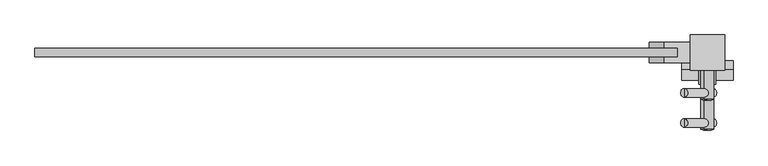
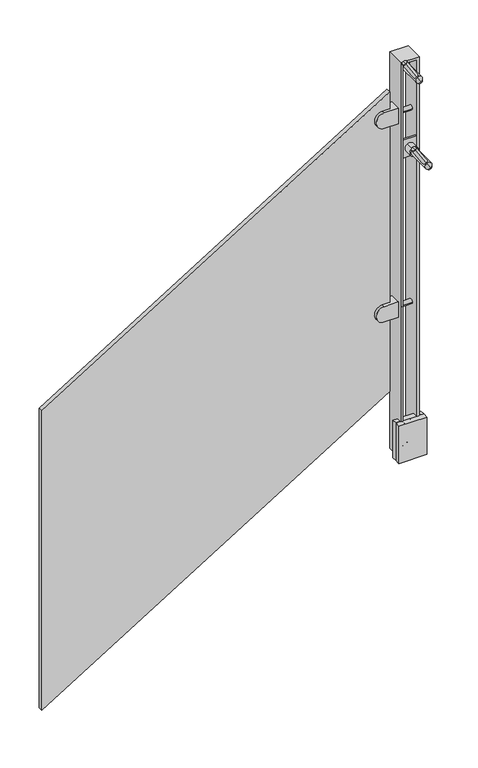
"""IFC4 building model written with IfcOpenShell, lengths in millimetres: proxy geometry, LIVERS_ICN - Glass Panel : LIVERS_ICN - Glass Panel."""

from ifc_helpers import new_model, si_unit, point, frame, origin, place, context, project, spatial, polyline, circle_curve, ellipse_curve, trimmed, outline, extrude, faceted_brep, source, transform, mapped, element, save
from ifc_brep_helpers import plane_surface, cylinder_surface, revolved_surface, advanced_brep


def building_element_proxy_b0592f50(model_context):
    return source(origin(), model_context, "Body", "SolidModel", [
        advanced_brep(
        [(1212.4700253, 60.3249609, 1367.0351008), (1219.2, 60.3249609, 1356.2648899), (1225.9299747, 60.3249609, 1345.4946791), (1212.4700253, 38.0999609, 1367.0351008), (1225.9299747, 38.0999609, 1345.4946791), (1219.2, 38.0999609, 1356.2648899)],
        [
            (0, 1),
            (1, 2),
            (2, 0, circle_curve(frame((1219.2, 60.3249609, 1356.2648899), z_axis=(0.0, 1.0, 0.0), x_axis=(0.5299192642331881, 0.0, -0.8480480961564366)), 12.7)),
            (0, 2, circle_curve(frame((1219.2, 60.3249609, 1356.2648899), z_axis=(0.0, 1.0, 0.0), x_axis=(0.5299192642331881, 0.0, -0.8480480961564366)), 12.7)),
            (3, 0),
            (2, 4),
            (4, 3, circle_curve(frame((1219.2, 38.0999609, 1356.2648899), z_axis=(0.0, 1.0, 0.0), x_axis=(0.5299192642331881, 0.0, -0.8480480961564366)), 12.7)),
            (3, 4, circle_curve(frame((1219.2, 38.0999609, 1356.2648899), z_axis=(0.0, 1.0, 0.0), x_axis=(0.5299192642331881, 0.0, -0.8480480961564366)), 12.7)),
            (5, 3),
            (4, 5),
        ],
        [
            plane_surface(frame((1219.2, 60.3249609, 1356.2648899), z_axis=(0.0, 1.0000000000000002, 0.0), x_axis=(0.5299192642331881, 0.0, -0.8480480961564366))),
            cylinder_surface(frame((1219.2, 69.3828283, 1356.2648899), z_axis=(0.0, -1.0, 0.0), x_axis=(0.5299192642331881, 0.0, -0.8480480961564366)), 12.7),
            plane_surface(frame((1219.2, 38.0999609, 1356.2648899), z_axis=(0.0, -1.0000000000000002, 0.0), x_axis=(0.5299192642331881, 0.0, -0.8480480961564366))),
        ],
        [
            (0, [[1, 2, 3]]),
            (0, [[-2, -1, 4]]),
            (1, [[5, -3, 6, 7]]),
            (1, [[-6, -4, -5, 8]]),
            (2, [[9, -7, 10]]),
            (2, [[-10, -8, -9]]),
        ],
    ),
        advanced_brep(
        [(1184.9323297, -25.4004131, 1411.1046259), (1184.9323297, -19.0504161, 1411.1046259), (1184.9323297, -12.7004191, 1411.1046259), (1227.535755, -25.4004131, 1342.9248933), (1227.535755, -12.7004191, 1342.9248933), (1227.535755, -19.0504161, 1342.9248933)],
        [
            (0, 1),
            (1, 2),
            (2, 0, circle_curve(frame((1184.9323297, -19.0504161, 1411.1046259), z_axis=(-0.5299192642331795, 0.0, 0.848048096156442), x_axis=(0.0, 1.0, 0.0)), 6.349997)),
            (0, 2, circle_curve(frame((1184.9323297, -19.0504161, 1411.1046259), z_axis=(-0.5299192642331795, 0.0, 0.848048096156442), x_axis=(0.0, 1.0, 0.0)), 6.349997)),
            (3, 0),
            (2, 4),
            (4, 3, circle_curve(frame((1227.535755, -19.0504161, 1342.9248933), z_axis=(-0.5299192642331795, 0.0, 0.848048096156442), x_axis=(0.0, 1.0, 0.0)), 6.349997)),
            (3, 4, circle_curve(frame((1227.535755, -19.0504161, 1342.9248933), z_axis=(-0.5299192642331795, 0.0, 0.848048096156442), x_axis=(0.0, 1.0, 0.0)), 6.349997)),
            (5, 3),
            (4, 5),
        ],
        [
            plane_surface(frame((1184.9323297, -19.0504161, 1411.1046259), z_axis=(-0.5299192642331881, 0.0, 0.8480480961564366), x_axis=(0.0, 1.0, 0.0))),
            cylinder_surface(frame((1177.5924143, -19.0504161, 1422.8509459), z_axis=(0.5299192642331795, 0.0, -0.848048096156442), x_axis=(0.0, 1.0, 0.0)), 6.349997),
            plane_surface(frame((1227.535755, -19.0504161, 1342.9248933), z_axis=(0.5299192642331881, 0.0, -0.8480480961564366), x_axis=(0.0, 1.0, 0.0))),
        ],
        [
            (0, [[1, 2, 3]]),
            (0, [[-2, -1, 4]]),
            (1, [[5, -3, 6, 7]]),
            (1, [[-6, -4, -5, 8]]),
            (2, [[9, -7, 10]]),
            (2, [[-10, -8, -9]]),
        ],
    ),
        advanced_brep(
        [(1219.2, -30.1375464, 1356.2648899), (1214.152519, -28.5500464, 1364.342548), (1224.247481, -28.5500464, 1348.1872318), (1214.152519, 38.0999609, 1364.342548), (1219.2, 38.0999609, 1356.2648899), (1224.247481, 38.0999609, 1348.1872318)],
        [
            (0, 1, circle_curve(frame((1219.2, -0.7687964, 1356.2648899), z_axis=(-0.848048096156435, 0.0, -0.5299192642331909), x_axis=(0.0, 1.0, 0.0)), 29.36875)),
            (1, 2, circle_curve(frame((1219.2, -28.5500464, 1356.2648899), z_axis=(0.0, -1.0, 0.0), x_axis=(0.5299192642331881, 0.0, -0.8480480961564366)), 9.525)),
            (2, 0, circle_curve(frame((1219.2, -0.7687964, 1356.2648899), z_axis=(-0.8480480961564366, 0.0, -0.5299192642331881), x_axis=(0.0, 1.0, 0.0)), 29.36875)),
            (2, 1, circle_curve(frame((1219.2, -28.5500464, 1356.2648899), z_axis=(0.0, -1.0, 0.0), x_axis=(0.5299192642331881, 0.0, -0.8480480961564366)), 9.525)),
            (3, 4),
            (4, 5),
            (5, 3, circle_curve(frame((1219.2, 38.0999609, 1356.2648899), z_axis=(0.0, 1.0, 0.0), x_axis=(0.5299192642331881, 0.0, -0.8480480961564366)), 9.525)),
            (3, 5, circle_curve(frame((1219.2, 38.0999609, 1356.2648899), z_axis=(0.0, 1.0, 0.0), x_axis=(0.5299192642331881, 0.0, -0.8480480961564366)), 9.525)),
            (1, 3),
            (5, 2),
        ],
        [
            revolved_surface(trimmed(ellipse_curve(frame((1219.2, -0.7687964, 1356.2648899), z_axis=(-0.8480480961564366, 0.0, -0.5299192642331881), x_axis=(0.0, 1.0, 0.0)), 29.36875, 29.36875), [point((1224.247481, -28.5500464, 1348.1872318))], [point((1219.2, -30.1375464, 1356.2648899))], True, "CARTESIAN"), (1219.2, 30.3031204, 1356.2648899), (0.0, -1.0, 0.0)),
            plane_surface(frame((1219.2, 38.0999609, 1356.2648899), z_axis=(0.0, 1.0000000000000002, 0.0), x_axis=(0.5299192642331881, 0.0, -0.8480480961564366))),
            cylinder_surface(frame((1219.2, 30.3031204, 1356.2648899), z_axis=(0.0, -1.0, 0.0), x_axis=(0.5299192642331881, 0.0, -0.8480480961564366)), 9.525),
        ],
        [
            (0, [[1, 2, 3]]),
            (0, [[-3, 4, -1]]),
            (1, [[5, 6, 7]]),
            (1, [[-6, -5, 8]]),
            (2, [[9, -7, 10, -2]]),
            (2, [[-10, -8, -9, -4]]),
        ],
    ),
        extrude(outline(polyline([(1238.25, 66.6749609), (1238.25, 60.3249609), (1200.15, 60.3249609), (1200.15, 66.6749609), (1238.25, 66.6749609)])), frame((0.0, 0.0, 1330.8648899), z_axis=(0.0, 0.0, 1.0), x_axis=(1.0, 0.0, 0.0)), (0.0, 0.0, 1.0), 50.8),
        advanced_brep(
        [(1212.4700253, 15.875, 1146.0174633), (1219.2, 15.875, 1135.2472525), (1225.9299747, 15.875, 1124.4770417), (1212.4700253, -6.35, 1146.0174633), (1225.9299747, -6.35, 1124.4770417), (1219.2, -6.35, 1135.2472525)],
        [
            (0, 1),
            (1, 2),
            (2, 0, circle_curve(frame((1219.2, 15.875, 1135.2472525), z_axis=(0.0, 1.0, 0.0), x_axis=(0.5299192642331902, 0.0, -0.8480480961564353)), 12.7)),
            (0, 2, circle_curve(frame((1219.2, 15.875, 1135.2472525), z_axis=(0.0, 1.0, 0.0), x_axis=(0.5299192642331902, 0.0, -0.8480480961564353)), 12.7)),
            (3, 0),
            (2, 4),
            (4, 3, circle_curve(frame((1219.2, -6.35, 1135.2472525), z_axis=(0.0, 1.0, 0.0), x_axis=(0.5299192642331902, 0.0, -0.8480480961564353)), 12.7)),
            (3, 4, circle_curve(frame((1219.2, -6.35, 1135.2472525), z_axis=(0.0, 1.0, 0.0), x_axis=(0.5299192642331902, 0.0, -0.8480480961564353)), 12.7)),
            (5, 3),
            (4, 5),
        ],
        [
            plane_surface(frame((1219.2, 15.875, 1135.2472525), z_axis=(0.0, 1.0000000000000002, 0.0), x_axis=(0.5299192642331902, 0.0, -0.8480480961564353))),
            cylinder_surface(frame((1219.2, 24.9328674, 1135.2472525), z_axis=(0.0, -1.0, 0.0), x_axis=(0.5299192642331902, 0.0, -0.8480480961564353)), 12.7),
            plane_surface(frame((1219.2, -6.35, 1135.2472525), z_axis=(0.0, -1.0000000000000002, 0.0), x_axis=(0.5299192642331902, 0.0, -0.8480480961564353))),
        ],
        [
            (0, [[1, 2, 3]]),
            (0, [[-2, -1, 4]]),
            (1, [[5, -3, 6, 7]]),
            (1, [[-6, -4, -5, 8]]),
            (2, [[9, -7, 10]]),
            (2, [[-10, -8, -9]]),
        ],
    ),
        advanced_brep(
        [(1184.9323297, -69.850374, 1190.0869885), (1184.9323297, -63.500377, 1190.0869885), (1184.9323297, -57.15038, 1190.0869885), (1227.535755, -69.850374, 1121.9072559), (1227.535755, -57.15038, 1121.9072559), (1227.535755, -63.500377, 1121.9072559)],
        [
            (0, 1),
            (1, 2),
            (2, 0, circle_curve(frame((1184.9323297, -63.500377, 1190.0869885), z_axis=(-0.5299192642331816, 0.0, 0.8480480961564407), x_axis=(0.0, 1.0, 0.0)), 6.349997)),
            (0, 2, circle_curve(frame((1184.9323297, -63.500377, 1190.0869885), z_axis=(-0.5299192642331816, 0.0, 0.8480480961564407), x_axis=(0.0, 1.0, 0.0)), 6.349997)),
            (3, 0),
            (2, 4),
            (4, 3, circle_curve(frame((1227.535755, -63.500377, 1121.9072559), z_axis=(-0.5299192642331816, 0.0, 0.8480480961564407), x_axis=(0.0, 1.0, 0.0)), 6.349997)),
            (3, 4, circle_curve(frame((1227.535755, -63.500377, 1121.9072559), z_axis=(-0.5299192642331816, 0.0, 0.8480480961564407), x_axis=(0.0, 1.0, 0.0)), 6.349997)),
            (5, 3),
            (4, 5),
        ],
        [
            plane_surface(frame((1184.9323297, -63.500377, 1190.0869885), z_axis=(-0.5299192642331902, 0.0, 0.8480480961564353), x_axis=(0.0, 1.0, 0.0))),
            cylinder_surface(frame((1177.5924143, -63.500377, 1201.8333085), z_axis=(0.5299192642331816, 0.0, -0.8480480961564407), x_axis=(0.0, 1.0, 0.0)), 6.349997),
            plane_surface(frame((1227.535755, -63.500377, 1121.9072559), z_axis=(0.5299192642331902, 0.0, -0.8480480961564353), x_axis=(0.0, 1.0, 0.0))),
        ],
        [
            (0, [[1, 2, 3]]),
            (0, [[-2, -1, 4]]),
            (1, [[5, -3, 6, 7]]),
            (1, [[-6, -4, -5, 8]]),
            (2, [[9, -7, 10]]),
            (2, [[-10, -8, -9]]),
        ],
    ),
        advanced_brep(
        [(1219.2, -74.5875073, 1135.2472525), (1214.152519, -73.0000073, 1143.3249106), (1224.247481, -73.0000073, 1127.1695944), (1214.152519, -6.35, 1143.3249106), (1219.2, -6.35, 1135.2472525), (1224.247481, -6.35, 1127.1695944)],
        [
            (0, 1, circle_curve(frame((1219.2, -45.2187573, 1135.2472525), z_axis=(-0.8480480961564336, 0.0, -0.529919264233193), x_axis=(0.0, 1.0, 0.0)), 29.36875)),
            (1, 2, circle_curve(frame((1219.2, -73.0000073, 1135.2472525), z_axis=(0.0, -1.0, 0.0), x_axis=(0.5299192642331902, 0.0, -0.8480480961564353)), 9.525)),
            (2, 0, circle_curve(frame((1219.2, -45.2187573, 1135.2472525), z_axis=(-0.8480480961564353, 0.0, -0.5299192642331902), x_axis=(0.0, 1.0, 0.0)), 29.36875)),
            (2, 1, circle_curve(frame((1219.2, -73.0000073, 1135.2472525), z_axis=(0.0, -1.0, 0.0), x_axis=(0.5299192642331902, 0.0, -0.8480480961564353)), 9.525)),
            (3, 4),
            (4, 5),
            (5, 3, circle_curve(frame((1219.2, -6.35, 1135.2472525), z_axis=(0.0, 1.0, 0.0), x_axis=(0.5299192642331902, 0.0, -0.8480480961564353)), 9.525)),
            (3, 5, circle_curve(frame((1219.2, -6.35, 1135.2472525), z_axis=(0.0, 1.0, 0.0), x_axis=(0.5299192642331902, 0.0, -0.8480480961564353)), 9.525)),
            (1, 3),
            (5, 2),
        ],
        [
            revolved_surface(trimmed(ellipse_curve(frame((1219.2, -45.2187573, 1135.2472525), z_axis=(-0.8480480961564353, 0.0, -0.5299192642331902), x_axis=(0.0, 1.0, 0.0)), 29.36875, 29.36875), [point((1224.247481, -73.0000073, 1127.1695944))], [point((1219.2, -74.5875073, 1135.2472525))], True, "CARTESIAN"), (1219.2, -14.1468405, 1135.2472525), (0.0, -1.0, 0.0)),
            plane_surface(frame((1219.2, -6.35, 1135.2472525), z_axis=(0.0, 1.0000000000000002, 0.0), x_axis=(0.5299192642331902, 0.0, -0.8480480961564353))),
            cylinder_surface(frame((1219.2, -14.1468405, 1135.2472525), z_axis=(0.0, -1.0, 0.0), x_axis=(0.5299192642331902, 0.0, -0.8480480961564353)), 9.525),
        ],
        [
            (0, [[1, 2, 3]]),
            (0, [[-3, 4, -1]]),
            (1, [[5, 6, 7]]),
            (1, [[-6, -5, 8]]),
            (2, [[9, -7, 10, -2]]),
            (2, [[-10, -8, -9, -4]]),
        ],
    ),
        extrude(outline(polyline([(1238.25, 22.225), (1238.25, 15.875), (1200.15, 15.875), (1200.15, 22.225), (1238.25, 22.225)])), frame((0.0, 0.0, 1109.8472525), z_axis=(0.0, 0.0, 1.0), x_axis=(1.0, 0.0, 0.0)), (0.0, 0.0, 1.0), 50.8),
        advanced_brep(
        [(1193.8, 55.5624457, 691.2837546), (1193.8, 25.3999457, 691.2837546), (1193.8, 25.3999457, 646.8337546), (1193.8, 55.5624457, 646.8337546), (1155.598906, 55.5624457, 646.8337546), (1155.598906, 55.5624457, 691.2837546), (1155.598906, 25.3999457, 646.8337546), (1155.598906, 34.1311957, 646.8337546), (1174.9280808, 34.1311957, 646.8337546), (1174.9280808, 46.8311957, 646.8337546), (1155.598906, 46.8311957, 646.8337546), (1155.598906, 25.3999457, 691.2837546), (1155.598906, 46.8311957, 691.2837546), (1174.9280808, 46.8311957, 691.2837546), (1174.9280808, 34.1311957, 691.2837546), (1155.598906, 34.1311957, 691.2837546)],
        [
            (0, 1),
            (1, 2),
            (2, 3),
            (3, 0),
            (3, 4),
            (4, 5, circle_curve(frame((1155.598906, 55.5624457, 669.0587546), z_axis=(0.0, 1.0, 0.0), x_axis=(0.0, 0.0, -1.0)), 22.225)),
            (5, 0),
            (2, 6),
            (6, 7),
            (7, 8),
            (8, 9),
            (9, 10),
            (10, 4),
            (1, 11),
            (11, 6, circle_curve(frame((1155.598906, 25.3999457, 669.0587546), z_axis=(0.0, -1.0, 0.0), x_axis=(0.0, 0.0, -1.0)), 22.225)),
            (5, 12),
            (12, 13),
            (13, 14),
            (14, 15),
            (15, 11),
            (13, 9),
            (8, 14),
            (12, 10, circle_curve(frame((1155.598906, 46.8311957, 669.0587546), z_axis=(0.0, -1.0, 0.0), x_axis=(0.0, 0.0, -1.0)), 22.225)),
            (7, 15, circle_curve(frame((1155.598906, 34.1311957, 669.0587546), z_axis=(0.0, 1.0, 0.0), x_axis=(0.0, 0.0, -1.0)), 22.225)),
        ],
        [
            plane_surface(frame((1193.8, 55.5624457, 646.8337546), z_axis=(1.0, 0.0, 0.0), x_axis=(0.0, 0.0, 1.0))),
            plane_surface(frame((1133.2969192, 55.5624457, 691.2837546), z_axis=(0.0, 1.0, 0.0), x_axis=(1.0, 0.0, 0.0))),
            plane_surface(frame((1133.2969192, 55.5624457, 646.8337546), z_axis=(0.0, 0.0, -1.0), x_axis=(1.0, 0.0, 0.0))),
            plane_surface(frame((1133.2969192, 25.3999457, 646.8337546), z_axis=(0.0, -1.0, 0.0), x_axis=(1.0, 0.0, 0.0))),
            plane_surface(frame((1133.2969192, 25.3999457, 691.2837546), z_axis=(0.0, 0.0, 1.0), x_axis=(1.0, 0.0, 0.0))),
            plane_surface(frame((1174.9280808, 46.8311957, 646.8337546), z_axis=(-1.0, 0.0, 0.0), x_axis=(0.0, 0.0, 1.0))),
            plane_surface(frame((1133.2969192, 46.8311957, 691.2837546), z_axis=(0.0, -1.0, 0.0), x_axis=(1.0, 0.0, 0.0))),
            plane_surface(frame((1133.2969192, 34.1311957, 646.8337546), z_axis=(0.0, 1.0, 0.0), x_axis=(1.0, 0.0, 0.0))),
            cylinder_surface(frame((1155.598906, 55.5624457, 669.0587546), z_axis=(0.0, 1.0, 0.0), x_axis=(0.0, 0.0, -1.0)), 22.225),
        ],
        [
            (0, [[1, 2, 3, 4]]),
            (1, [[-4, 5, 6, 7]]),
            (2, [[-3, 8, 9, 10, 11, 12, 13, -5]]),
            (3, [[-2, 14, 15, -8]]),
            (4, [[-1, -7, 16, 17, 18, 19, 20, -14]]),
            (5, [[21, -11, 22, -18]]),
            (6, [[-21, -17, 23, -12]]),
            (7, [[-22, -10, 24, -19]]),
            (8, [[-6, -13, -23, -16]]),
            (8, [[-9, -15, -20, -24]]),
        ],
    ),
        advanced_brep(
        [(1193.8, 55.5624457, 1250.0837546), (1193.8, 25.3999457, 1250.0837546), (1193.8, 25.3999457, 1205.6337546), (1193.8, 55.5624457, 1205.6337546), (1155.598906, 55.5624457, 1205.6337546), (1155.598906, 55.5624457, 1250.0837546), (1155.598906, 25.3999457, 1205.6337546), (1155.598906, 34.1311957, 1205.6337546), (1174.9280808, 34.1311957, 1205.6337546), (1174.9280808, 46.8311957, 1205.6337546), (1155.598906, 46.8311957, 1205.6337546), (1155.598906, 25.3999457, 1250.0837546), (1155.598906, 46.8311957, 1250.0837546), (1174.9280808, 46.8311957, 1250.0837546), (1174.9280808, 34.1311957, 1250.0837546), (1155.598906, 34.1311957, 1250.0837546)],
        [
            (0, 1),
            (1, 2),
            (2, 3),
            (3, 0),
            (3, 4),
            (4, 5, circle_curve(frame((1155.598906, 55.5624457, 1227.8587546), z_axis=(0.0, 1.0, 0.0), x_axis=(0.0, 0.0, -1.0)), 22.225)),
            (5, 0),
            (2, 6),
            (6, 7),
            (7, 8),
            (8, 9),
            (9, 10),
            (10, 4),
            (1, 11),
            (11, 6, circle_curve(frame((1155.598906, 25.3999457, 1227.8587546), z_axis=(0.0, -1.0, 0.0), x_axis=(0.0, 0.0, -1.0)), 22.225)),
            (5, 12),
            (12, 13),
            (13, 14),
            (14, 15),
            (15, 11),
            (13, 9),
            (8, 14),
            (12, 10, circle_curve(frame((1155.598906, 46.8311957, 1227.8587546), z_axis=(0.0, -1.0, 0.0), x_axis=(0.0, 0.0, -1.0)), 22.225)),
            (7, 15, circle_curve(frame((1155.598906, 34.1311957, 1227.8587546), z_axis=(0.0, 1.0, 0.0), x_axis=(0.0, 0.0, -1.0)), 22.225)),
        ],
        [
            plane_surface(frame((1193.8, 55.5624457, 1205.6337546), z_axis=(1.0, 0.0, 0.0), x_axis=(0.0, 0.0, 1.0))),
            plane_surface(frame((1133.2969192, 55.5624457, 1250.0837546), z_axis=(0.0, 1.0, 0.0), x_axis=(1.0, 0.0, 0.0))),
            plane_surface(frame((1133.2969192, 55.5624457, 1205.6337546), z_axis=(0.0, 0.0, -1.0), x_axis=(1.0, 0.0, 0.0))),
            plane_surface(frame((1133.2969192, 25.3999457, 1205.6337546), z_axis=(0.0, -1.0, 0.0), x_axis=(1.0, 0.0, 0.0))),
            plane_surface(frame((1133.2969192, 25.3999457, 1250.0837546), z_axis=(0.0, 0.0, 1.0), x_axis=(1.0, 0.0, 0.0))),
            plane_surface(frame((1174.9280808, 46.8311957, 1205.6337546), z_axis=(-1.0, 0.0, 0.0), x_axis=(0.0, 0.0, 1.0))),
            plane_surface(frame((1133.2969192, 46.8311957, 1250.0837546), z_axis=(0.0, -1.0, 0.0), x_axis=(1.0, 0.0, 0.0))),
            plane_surface(frame((1133.2969192, 34.1311957, 1205.6337546), z_axis=(0.0, 1.0, 0.0), x_axis=(1.0, 0.0, 0.0))),
            cylinder_surface(frame((1155.598906, 55.5624457, 1227.8587546), z_axis=(0.0, 1.0, 0.0), x_axis=(0.0, 0.0, -1.0)), 22.225),
        ],
        [
            (0, [[1, 2, 3, 4]]),
            (1, [[-4, 5, 6, 7]]),
            (2, [[-3, 8, 9, 10, 11, 12, 13, -5]]),
            (3, [[-2, 14, 15, -8]]),
            (4, [[-1, -7, 16, 17, 18, 19, 20, -14]]),
            (5, [[21, -11, 22, -18]]),
            (6, [[-21, -17, 23, -12]]),
            (7, [[-22, -10, 24, -19]]),
            (8, [[-6, -13, -23, -16]]),
            (8, [[-9, -15, -20, -24]]),
        ],
    ),
        advanced_brep(
        [(1219.2, 28.575, 252.3927211), (1219.2, 29.7562407, 252.3927211), (1219.2, 29.7562407, 274.6177323), (1219.2, 28.575, 274.6177323), (1219.2, 28.575, 263.5052267), (1219.2, 32.325, 257.8927211), (1219.2, 30.8816229, 263.5052267), (1219.2, 32.325, 269.1177323), (1219.2, 34.8740117, 257.8927211), (1219.2, 34.8740117, 269.1177323), (1219.2, 33.8500285, 254.9447147), (1219.2, 33.8500285, 272.0657386), (1219.2, 31.8562692, 253.1864388), (1219.2, 31.8562692, 273.8240146)],
        [
            (0, 1),
            (1, 2, circle_curve(frame((1219.2, 29.7562407, 263.5052267), z_axis=(0.0, -1.0, 0.0), x_axis=(0.0, 0.0, 1.0)), 11.1125056)),
            (2, 3),
            (3, 0, circle_curve(frame((1219.2, 28.575, 263.5052267), z_axis=(0.0, 1.0, 0.0), x_axis=(0.0, 0.0, 1.0)), 11.1125056)),
            (2, 1, circle_curve(frame((1219.2, 29.7562407, 263.5052267), z_axis=(0.0, -1.0, 0.0), x_axis=(0.0, 0.0, 1.0)), 11.1125056)),
            (0, 3, circle_curve(frame((1219.2, 28.575, 263.5052267), z_axis=(0.0, 1.0, 0.0), x_axis=(0.0, 0.0, 1.0)), 11.1125056)),
            (4, 0),
            (3, 4),
            (5, 6),
            (6, 7),
            (7, 5, circle_curve(frame((1219.2, 32.325, 263.5052267), z_axis=(0.0, 1.0, 0.0), x_axis=(0.0, 0.0, 1.0)), 5.6125056)),
            (5, 7, circle_curve(frame((1219.2, 32.325, 263.5052267), z_axis=(0.0, 1.0, 0.0), x_axis=(0.0, 0.0, 1.0)), 5.6125056)),
            (8, 5),
            (7, 9),
            (9, 8, circle_curve(frame((1219.2, 34.8740117, 263.5052267), z_axis=(0.0, 1.0, 0.0), x_axis=(0.0, 0.0, 1.0)), 5.6125056)),
            (8, 9, circle_curve(frame((1219.2, 34.8740117, 263.5052267), z_axis=(0.0, 1.0, 0.0), x_axis=(0.0, 0.0, 1.0)), 5.6125056)),
            (10, 8, circle_curve(frame((1219.2, 31.75, 257.325997), z_axis=(1.0, 0.0, 0.0), x_axis=(0.0, -1.0, 0.0)), 3.175)),
            (9, 11, circle_curve(frame((1219.2, 31.75, 269.6844563), z_axis=(1.0, 0.0, 0.0), x_axis=(0.0, -1.0, 0.0)), 3.175)),
            (11, 10, circle_curve(frame((1219.2, 33.8500285, 263.5052267), z_axis=(0.0, 1.0, 0.0), x_axis=(0.0, 0.0, 1.0)), 8.560512)),
            (10, 11, circle_curve(frame((1219.2, 33.8500285, 263.5052267), z_axis=(0.0, 1.0, 0.0), x_axis=(0.0, 0.0, 1.0)), 8.560512)),
            (12, 10),
            (11, 13),
            (13, 12, circle_curve(frame((1219.2, 31.8562692, 263.5052267), z_axis=(0.0, 1.0, 0.0), x_axis=(0.0, 0.0, 1.0)), 10.3187879)),
            (12, 13, circle_curve(frame((1219.2, 31.8562692, 263.5052267), z_axis=(0.0, 1.0, 0.0), x_axis=(0.0, 0.0, 1.0)), 10.3187879)),
            (1, 12, circle_curve(frame((1219.2, 29.7562407, 255.5677211), z_axis=(1.0, 0.0, 0.0), x_axis=(0.0, -1.0, 0.0)), 3.175)),
            (13, 2, circle_curve(frame((1219.2, 29.7562407, 271.4427323), z_axis=(1.0, 0.0, 0.0), x_axis=(0.0, -1.0, 0.0)), 3.175)),
        ],
        [
            cylinder_surface(frame((1219.2, 28.575, 263.5052267), z_axis=(0.0, -1.0, 0.0), x_axis=(0.0, 0.0, 1.0)), 11.1125056),
            plane_surface(frame((1219.2, 28.575, 263.5052267), z_axis=(0.0, -1.0, 0.0), x_axis=(0.0, 0.0, 1.0))),
            revolved_surface(polyline([(1219.2, 30.8816229, 263.5052267), (1219.2, 32.325, 269.1177323)]), (1219.2, 28.575, 263.5052267), (0.0, -1.0, 0.0)),
            revolved_surface(polyline([(1219.2, 32.325, 269.1177323), (1219.2, 34.8740117, 269.1177323)]), (1219.2, 28.575, 263.5052267), (0.0, -1.0, 0.0)),
            revolved_surface(trimmed(ellipse_curve(frame((1219.2, 31.75, 269.6844563), z_axis=(1.0, 0.0, 0.0), x_axis=(0.0, -1.0, 0.0)), 3.175, 3.175), [point((1219.2, 34.8740117, 269.1177323))], [point((1219.2, 33.8500285, 272.0657386))], True, "CARTESIAN"), (1219.2, 28.575, 263.5052267), (0.0, -1.0, 0.0)),
            revolved_surface(polyline([(1219.2, 33.8500285, 272.0657386), (1219.2, 31.8562692, 273.8240146)]), (1219.2, 28.575, 263.5052267), (0.0, -1.0, 0.0)),
            revolved_surface(trimmed(ellipse_curve(frame((1219.2, 29.7562407, 271.4427323), z_axis=(1.0, 0.0, 0.0), x_axis=(0.0, -1.0, 0.0)), 3.175, 3.175), [point((1219.2, 31.8562692, 273.8240146))], [point((1219.2, 29.7562407, 274.6177323))], True, "CARTESIAN"), (1219.2, 28.575, 263.5052267), (0.0, -1.0, 0.0)),
        ],
        [
            (0, [[1, 2, 3, 4]]),
            (0, [[-3, 5, -1, 6]]),
            (1, [[7, -4, 8]]),
            (1, [[-8, -6, -7]]),
            (2, [[9, 10, 11]]),
            (2, [[-10, -9, 12]]),
            (3, [[13, -11, 14, 15]]),
            (3, [[-14, -12, -13, 16]]),
            (4, [[17, -15, 18, 19]]),
            (4, [[-18, -16, -17, 20]]),
            (5, [[21, -19, 22, 23]]),
            (5, [[-22, -20, -21, 24]]),
            (6, [[25, -23, 26, -2]]),
            (6, [[-26, -24, -25, -5]]),
        ],
    ),
        advanced_brep(
        [(1219.2, 28.575, 322.2427211), (1219.2, 29.7562407, 322.2427211), (1219.2, 29.7562407, 344.4677323), (1219.2, 28.575, 344.4677323), (1219.2, 28.575, 333.3552267), (1219.2, 33.8500285, 324.7947147), (1219.2, 34.8740117, 327.7427211), (1219.2, 34.8740117, 338.9677323), (1219.2, 33.8500285, 341.9157386), (1219.2, 31.8562692, 323.0364388), (1219.2, 31.8562692, 343.6740146), (1219.2, 32.325, 327.7427211), (1219.2, 30.8816229, 333.3552267), (1219.2, 32.325, 338.9677323)],
        [
            (0, 1),
            (1, 2, circle_curve(frame((1219.2, 29.7562407, 333.3552267), z_axis=(0.0, -1.0, 0.0), x_axis=(0.0, 0.0, 1.0)), 11.1125056)),
            (2, 3),
            (3, 0, circle_curve(frame((1219.2, 28.575, 333.3552267), z_axis=(0.0, 1.0, 0.0), x_axis=(0.0, 0.0, 1.0)), 11.1125056)),
            (2, 1, circle_curve(frame((1219.2, 29.7562407, 333.3552267), z_axis=(0.0, -1.0, 0.0), x_axis=(0.0, 0.0, 1.0)), 11.1125056)),
            (0, 3, circle_curve(frame((1219.2, 28.575, 333.3552267), z_axis=(0.0, 1.0, 0.0), x_axis=(0.0, 0.0, 1.0)), 11.1125056)),
            (4, 0),
            (3, 4),
            (5, 6, circle_curve(frame((1219.2, 31.75, 327.175997), z_axis=(1.0, 0.0, 0.0), x_axis=(0.0, -1.0, 0.0)), 3.175)),
            (6, 7, circle_curve(frame((1219.2, 34.8740117, 333.3552267), z_axis=(0.0, -1.0, 0.0), x_axis=(0.0, 0.0, 1.0)), 5.6125056)),
            (7, 8, circle_curve(frame((1219.2, 31.75, 339.5344563), z_axis=(1.0, 0.0, 0.0), x_axis=(0.0, -1.0, 0.0)), 3.175)),
            (8, 5, circle_curve(frame((1219.2, 33.8500285, 333.3552267), z_axis=(0.0, 1.0, 0.0), x_axis=(0.0, 0.0, 1.0)), 8.560512)),
            (7, 6, circle_curve(frame((1219.2, 34.8740117, 333.3552267), z_axis=(0.0, -1.0, 0.0), x_axis=(0.0, 0.0, 1.0)), 5.6125056)),
            (5, 8, circle_curve(frame((1219.2, 33.8500285, 333.3552267), z_axis=(0.0, 1.0, 0.0), x_axis=(0.0, 0.0, 1.0)), 8.560512)),
            (9, 5),
            (8, 10),
            (10, 9, circle_curve(frame((1219.2, 31.8562692, 333.3552267), z_axis=(0.0, 1.0, 0.0), x_axis=(0.0, 0.0, 1.0)), 10.3187879)),
            (9, 10, circle_curve(frame((1219.2, 31.8562692, 333.3552267), z_axis=(0.0, 1.0, 0.0), x_axis=(0.0, 0.0, 1.0)), 10.3187879)),
            (1, 9, circle_curve(frame((1219.2, 29.7562407, 325.4177211), z_axis=(1.0, 0.0, 0.0), x_axis=(0.0, -1.0, 0.0)), 3.175)),
            (10, 2, circle_curve(frame((1219.2, 29.7562407, 341.2927323), z_axis=(1.0, 0.0, 0.0), x_axis=(0.0, -1.0, 0.0)), 3.175)),
            (11, 12),
            (12, 13),
            (13, 11, circle_curve(frame((1219.2, 32.325, 333.3552267), z_axis=(0.0, 1.0, 0.0), x_axis=(0.0, 0.0, 1.0)), 5.6125056)),
            (11, 13, circle_curve(frame((1219.2, 32.325, 333.3552267), z_axis=(0.0, 1.0, 0.0), x_axis=(0.0, 0.0, 1.0)), 5.6125056)),
            (6, 11),
            (13, 7),
        ],
        [
            cylinder_surface(frame((1219.2, 28.575, 333.3552267), z_axis=(0.0, -1.0, 0.0), x_axis=(0.0, 0.0, 1.0)), 11.1125056),
            plane_surface(frame((1219.2, 28.575, 333.3552267), z_axis=(0.0, -1.0, 0.0), x_axis=(0.0, 0.0, 1.0))),
            revolved_surface(trimmed(ellipse_curve(frame((1219.2, 31.75, 339.5344563), z_axis=(1.0, 0.0, 0.0), x_axis=(0.0, -1.0, 0.0)), 3.175, 3.175), [point((1219.2, 34.8740117, 338.9677323))], [point((1219.2, 33.8500285, 341.9157386))], True, "CARTESIAN"), (1219.2, 28.575, 333.3552267), (0.0, -1.0, 0.0)),
            revolved_surface(polyline([(1219.2, 33.8500285, 341.9157386), (1219.2, 31.8562692, 343.6740146)]), (1219.2, 28.575, 333.3552267), (0.0, -1.0, 0.0)),
            revolved_surface(trimmed(ellipse_curve(frame((1219.2, 29.7562407, 341.2927323), z_axis=(1.0, 0.0, 0.0), x_axis=(0.0, -1.0, 0.0)), 3.175, 3.175), [point((1219.2, 31.8562692, 343.6740146))], [point((1219.2, 29.7562407, 344.4677323))], True, "CARTESIAN"), (1219.2, 28.575, 333.3552267), (0.0, -1.0, 0.0)),
            revolved_surface(polyline([(1219.2, 30.8816229, 333.3552267), (1219.2, 32.325, 338.9677323)]), (1219.2, 28.575, 333.3552267), (0.0, -1.0, 0.0)),
            revolved_surface(polyline([(1219.2, 32.325, 338.9677323), (1219.2, 34.8740117, 338.9677323)]), (1219.2, 28.575, 333.3552267), (0.0, -1.0, 0.0)),
        ],
        [
            (0, [[1, 2, 3, 4]]),
            (0, [[-3, 5, -1, 6]]),
            (1, [[7, -4, 8]]),
            (1, [[-8, -6, -7]]),
            (2, [[9, 10, 11, 12]]),
            (2, [[-11, 13, -9, 14]]),
            (3, [[15, -12, 16, 17]]),
            (3, [[-16, -14, -15, 18]]),
            (4, [[19, -17, 20, -2]]),
            (4, [[-20, -18, -19, -5]]),
            (5, [[21, 22, 23]]),
            (5, [[-22, -21, 24]]),
            (6, [[25, -23, 26, -10]]),
            (6, [[-26, -24, -25, -13]]),
        ],
    ),
        faceted_brep([(1244.6, 14.2874305, 1388.0148899), (1244.6, 14.2874305, 244.4552267), (1244.6, 15.875, 244.4552267), (1244.6, 15.875, 352.4052267), (1244.6, 28.575, 352.4052267), (1244.6, 28.575, 244.4552267), (1244.6, 66.6749609, 244.4552267), (1244.6, 66.6749609, 1388.0148899), (1238.25, 66.6749609, 244.4552267), (1238.25, 28.575, 244.4552267), (1238.25, 28.575, 352.4052267), (1238.25, 15.875, 352.4052267), (1238.25, 15.875, 244.4552267), (1238.25, 14.2874305, 244.4552267), (1238.25, 14.2874305, 1381.6648899), (1238.25, 66.6749609, 1381.6648899), (1181.1, 28.575, 244.4552267), (1193.8, 28.575, 244.4552267), (1193.8, 66.6749609, 244.4552267), (1200.15, 66.6749609, 244.4552267), (1200.15, 28.575, 244.4552267), (1257.3, 28.575, 244.4552267), (1257.3, 15.875, 244.4552267), (1200.15, 15.875, 244.4552267), (1200.15, 14.2874305, 244.4552267), (1193.8, 14.2874305, 244.4552267), (1193.8, 15.875, 244.4552267), (1181.1, 15.875, 244.4552267), (1193.8, 14.2874305, 1388.0148899), (1200.15, 14.2874305, 1381.6648899), (1193.8, 66.6749609, 1388.0148899), (1200.15, 66.6749609, 1381.6648899), (1200.15, 15.875, 352.4052267), (1200.15, 28.575, 352.4052267), (1193.8, 28.575, 352.4052267), (1193.8, 15.875, 352.4052267), (1257.3, 28.575, 352.4052267), (1181.1, 28.575, 352.4052267), (1181.1, 15.875, 352.4052267), (1257.3, 15.875, 352.4052267)], [[[0, 1, 2, 3, 4, 5, 6, 7]], [[8, 9, 10, 11, 12, 13, 14, 15]], [[16, 17, 18, 19, 20, 9, 8, 6, 5, 21, 22, 2, 1, 13, 12, 23, 24, 25, 26, 27]], [[1, 0, 28, 25, 24, 29, 14, 13]], [[7, 30, 28, 0]], [[8, 15, 31, 19, 18, 30, 7, 6]], [[24, 23, 32, 33, 20, 19, 31, 29]], [[14, 29, 31, 15]], [[30, 18, 17, 34, 35, 26, 25, 28]], [[20, 33, 10, 9]], [[21, 5, 4, 36]], [[37, 34, 17, 16]], [[12, 11, 32, 23]], [[27, 26, 35, 38]], [[39, 3, 2, 22]], [[36, 39, 22, 21]], [[33, 32, 11, 10]], [[36, 4, 3, 39]], [[38, 35, 34, 37]], [[16, 27, 38, 37]]]),
        extrude(outline(polyline([(1257.3, 15.875), (1257.3, 0.0), (1181.1, 0.0), (1181.1, 15.875), (1257.3, 15.875)])), frame((0.0, 0.0, 244.4552267), z_axis=(0.0, 0.0, 1.0), x_axis=(1.0, 0.0, 0.0)), (0.0, 0.0, 1.0), 107.95),
        advanced_brep(
        [(1200.15, 41.2749421, 669.0587601), (1200.15, 47.5989918, 669.0587601), (1200.15, 34.9508924, 669.0587601), (1238.2639862, 47.5989918, 669.0587601), (1238.2639862, 41.2749421, 669.0587601), (1238.2639862, 34.9508924, 669.0587601)],
        [
            (0, 1),
            (1, 2, circle_curve(frame((1200.15, 41.2749421, 669.0587601), z_axis=(-1.0, 0.0, 0.0), x_axis=(0.0, -1.0, 0.0)), 6.3240497)),
            (2, 0),
            (2, 1, circle_curve(frame((1200.15, 41.2749421, 669.0587601), z_axis=(-1.0, 0.0, 0.0), x_axis=(0.0, -1.0, 0.0)), 6.3240497)),
            (3, 4),
            (4, 5),
            (5, 3, circle_curve(frame((1238.2639862, 41.2749421, 669.0587601), z_axis=(1.0, 0.0, 0.0), x_axis=(0.0, -1.0, 0.0)), 6.3240497)),
            (3, 5, circle_curve(frame((1238.2639862, 41.2749421, 669.0587601), z_axis=(1.0, 0.0, 0.0), x_axis=(0.0, -1.0, 0.0)), 6.3240497)),
            (1, 3),
            (5, 2),
        ],
        [
            plane_surface(frame((1200.15, 41.2749421, 669.0587601), z_axis=(-1.0, 0.0, 0.0), x_axis=(0.0, -1.0, 0.0))),
            plane_surface(frame((1238.2639862, 41.2749421, 669.0587601), z_axis=(1.0, 0.0, 0.0), x_axis=(0.0, -1.0, 0.0))),
            cylinder_surface(frame((1200.15, 41.2749421, 669.0587601), z_axis=(-1.0, 0.0, 0.0), x_axis=(0.0, -1.0, 0.0)), 6.3240497),
        ],
        [
            (0, [[1, 2, 3]]),
            (0, [[-3, 4, -1]]),
            (1, [[5, 6, 7]]),
            (1, [[-6, -5, 8]]),
            (2, [[9, -7, 10, -2]]),
            (2, [[-10, -8, -9, -4]]),
        ],
    ),
        advanced_brep(
        [(1200.15, 41.2749421, 1227.8587601), (1200.15, 47.5989918, 1227.8587601), (1200.15, 34.9508924, 1227.8587601), (1238.2639862, 47.5989918, 1227.8587601), (1238.2639862, 41.2749421, 1227.8587601), (1238.2639862, 34.9508924, 1227.8587601)],
        [
            (0, 1),
            (1, 2, circle_curve(frame((1200.15, 41.2749421, 1227.8587601), z_axis=(-1.0, 0.0, 0.0), x_axis=(0.0, -1.0, 0.0)), 6.3240497)),
            (2, 0),
            (2, 1, circle_curve(frame((1200.15, 41.2749421, 1227.8587601), z_axis=(-1.0, 0.0, 0.0), x_axis=(0.0, -1.0, 0.0)), 6.3240497)),
            (3, 4),
            (4, 5),
            (5, 3, circle_curve(frame((1238.2639862, 41.2749421, 1227.8587601), z_axis=(1.0, 0.0, 0.0), x_axis=(0.0, -1.0, 0.0)), 6.3240497)),
            (3, 5, circle_curve(frame((1238.2639862, 41.2749421, 1227.8587601), z_axis=(1.0, 0.0, 0.0), x_axis=(0.0, -1.0, 0.0)), 6.3240497)),
            (1, 3),
            (5, 2),
        ],
        [
            plane_surface(frame((1200.15, 41.2749421, 1227.8587601), z_axis=(-1.0, 0.0, 0.0), x_axis=(0.0, -1.0, 0.0))),
            plane_surface(frame((1238.2639862, 41.2749421, 1227.8587601), z_axis=(1.0, 0.0, 0.0), x_axis=(0.0, -1.0, 0.0))),
            cylinder_surface(frame((1200.15, 41.2749421, 1227.8587601), z_axis=(-1.0, 0.0, 0.0), x_axis=(0.0, -1.0, 0.0)), 6.3240497),
        ],
        [
            (0, [[1, 2, 3]]),
            (0, [[-3, 4, -1]]),
            (1, [[5, 6, 7]]),
            (1, [[-6, -5, 8]]),
            (2, [[9, -7, 10, -2]]),
            (2, [[-10, -8, -9, -4]]),
        ],
    ),
        extrude(outline(polyline([(434.7429388, 1174.9280808), (1298.3429388, 1174.9280808), (710.9269986, 224.6647462), (-152.6730014, 224.6647462), (434.7429388, 1174.9280808)])), frame((0.0, 34.1309994, 0.0), z_axis=(0.0, 1.0, 0.0), x_axis=(0.0, 0.0, 1.0)), (0.0, 0.0, 1.0), 12.7001962),
    ])


if __name__ == "__main__":
    model = new_model("IFC4")
    model_context = context("Model", 3, world=origin())
    ifc_project = project(units=[si_unit("LENGTHUNIT", "METRE", prefix="MILLI")], contexts=[model_context])
    site = spatial("IfcSite", under=ifc_project)
    building = spatial("IfcBuilding", under=site)
    placement = place(None, origin())
    building_element_proxy_shape = building_element_proxy_b0592f50(model_context)
    element("IfcBuildingElementProxy", 1, Name="LIVERS_ICN - Glass Panel : LIVERS_ICN - Glass Panel", ObjectType="LIVERS_ICN - Glass Panel : LIVERS_ICN - Glass Panel", at=placement, inside=building, context=model_context, shape_type="MappedRepresentation", body=[
        mapped(building_element_proxy_shape, transform((0.0, 0.0, 0.0), x_axis=(1.0, 0.0, 0.0), y_axis=(0.0, 1.0, 0.0), z_axis=(0.0, 0.0, 1.0))),
    ])
    save(model, "model.ifc")
